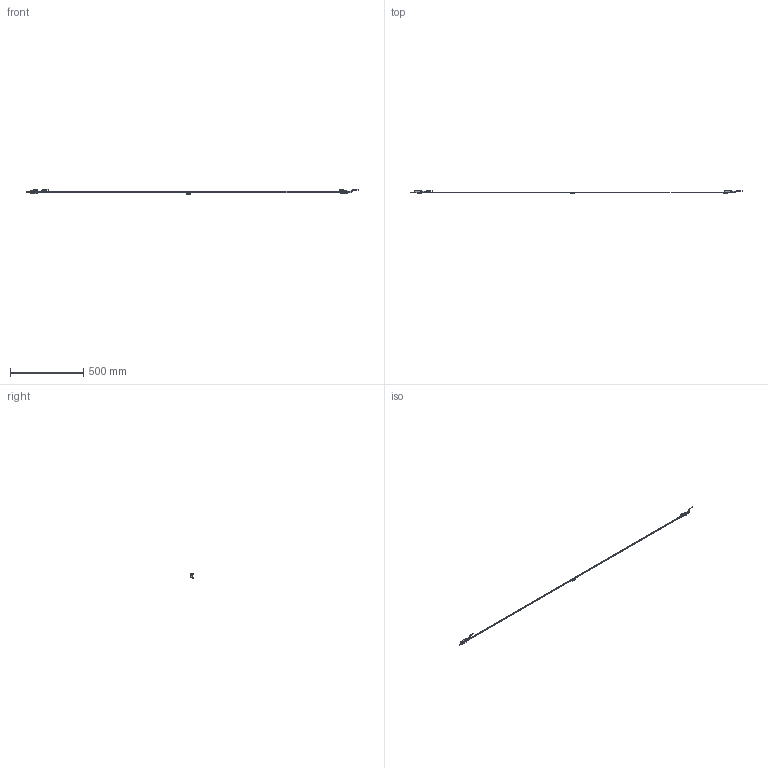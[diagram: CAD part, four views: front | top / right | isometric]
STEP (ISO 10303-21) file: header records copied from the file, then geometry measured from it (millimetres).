
FILE_DESCRIPTION(('Creo Elements/Direct Modeling STEP Export'),'2;1');
FILE_NAME('ITA-2120.stp','2025-01-23T10:52:52',(''),(''),'Creo Elements/Direct Modeling STEP processor for AP214 (Solid Model)','Creo Elements/Direct Modeling 20.4A 18-Oct-2021 (C) Parametric Technology GmbH','');
FILE_SCHEMA(('AUTOMOTIVE_DESIGN { 1 0 10303 214 1 1 1 1 }'));
Length unit declared in the file: millimetre
Products named in the file (9): END_TAPE_2; READING_HEAD_1; TAPE_2120; READING_HEAD_2; MAGNET_L1; MAGNET_L2; MAGNET_I0; END_TAPE_1; ITA-2120
Assembly tree (8 placements, depth 2):
  ITA-2120
    END_TAPE_1
    MAGNET_I0
    MAGNET_L2
    MAGNET_L1
    READING_HEAD_2
    TAPE_2120
    READING_HEAD_1
    END_TAPE_2
Bounding box: 2271.13 x 15.04 x 34.82 mm (x, y, z)
Volume: 36278.8 mm3; surface area: 59421.8 mm2
Topology: 8 solids, 8 shells, 1250 faces, 3413 edges, 2210 vertices
Faces by surface type: plane 908, cylinder 222, bspline 54, cone 32, torus 22, sphere 12
Entity records: 52347 total; most frequent: CARTESIAN_POINT 13619, ORIENTED_EDGE 6786, DIRECTION 5939, EDGE_CURVE 3393, VECTOR 2755, LINE 2755, VERTEX_POINT 2210, AXIS2_PLACEMENT_3D 1592
